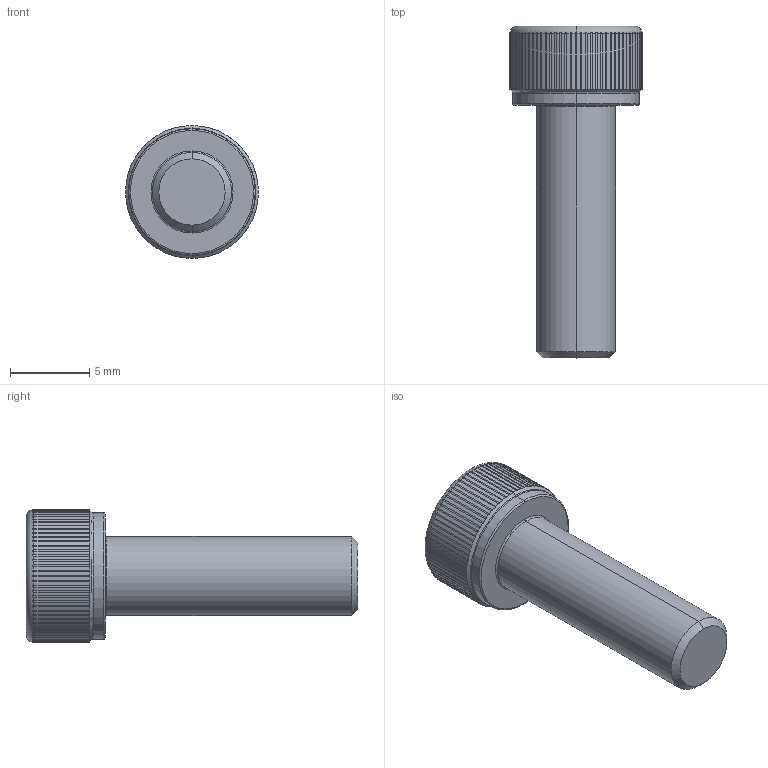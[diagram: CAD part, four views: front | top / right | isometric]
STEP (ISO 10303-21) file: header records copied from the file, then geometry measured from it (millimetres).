
FILE_DESCRIPTION (( 'STEP AP203' ), '1' );
FILE_NAME ('LGDT-304-M5x16.STEP', '2026-08-10T03:46:38', ( '' ), ( '' ), 'SwSTEP 2.0', 'SolidWorks 2020', '' );
FILE_SCHEMA (( 'CONFIG_CONTROL_DESIGN' ));
Length unit declared in the file: millimetre
Products named in the file (1): LGDT-304-M5x16
Bounding box: 8.4 x 21 x 8.4 mm (x, y, z)
Volume: 542.2 mm3; surface area: 520 mm2
Topology: 1 solids, 1 shells, 204 faces, 576 edges, 376 vertices
Faces by surface type: cylinder 175, cone 11, plane 10, torus 8
Entity records: 8367 total; most frequent: CARTESIAN_POINT 3208, ORIENTED_EDGE 1152, DIRECTION 988, EDGE_CURVE 576, AXIS2_PLACEMENT_3D 398, VERTEX_POINT 376, EDGE_LOOP 206, ADVANCED_FACE 204
